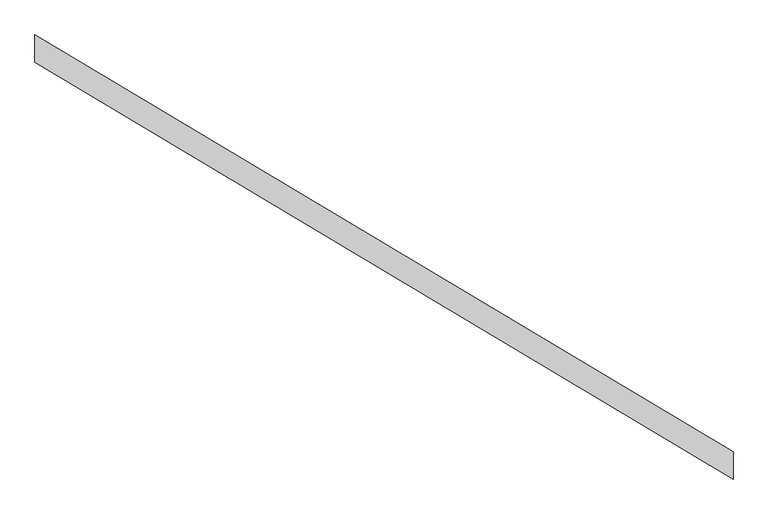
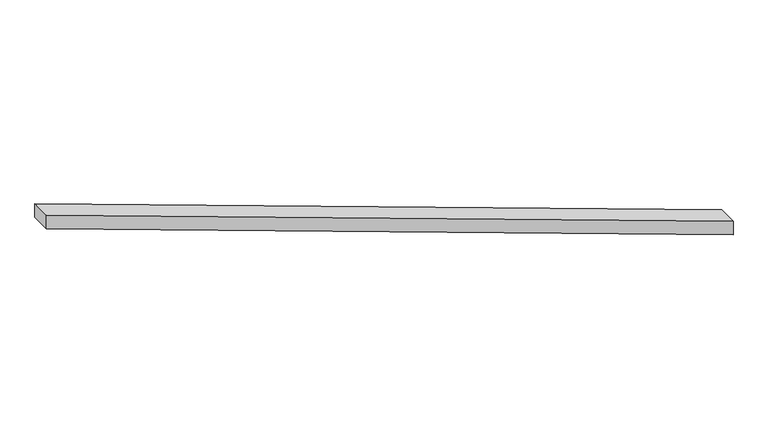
"""IFC4 building model written with IfcOpenShell, lengths in millimetres: proxy geometry, Modelos genéricos 261 : Modelos genéricos 259."""

from ifc_helpers import new_model, si_unit, frame, origin, place, context, project, spatial, polyline, outline, extrude, source, transform, mapped, element, save


def generic_models_aa6c6cb6(model_context):
    return source(origin(), model_context, "Body", "SweptSolid", [
        extrude(outline(polyline([(9303.4472467, 5940.1777154), (9303.4472467, 6079.9926685), (12893.4472467, 3933.4387696), (12893.4472467, 3793.6238165), (9303.4472467, 5940.1777154)])), frame((0.0, 0.0, 3000.0), z_axis=(0.0, 0.0, 1.0), x_axis=(1.0, 0.0, 0.0)), (0.0, 0.0, 1.0), 100.0),
    ])


if __name__ == "__main__":
    model = new_model("IFC4")
    model_context = context("Model", 3, world=origin())
    ifc_project = project(units=[si_unit("LENGTHUNIT", "METRE", prefix="MILLI")], contexts=[model_context])
    site = spatial("IfcSite", under=ifc_project)
    building = spatial("IfcBuilding", under=site)
    placement = place(None, origin())
    generic_models_shape = generic_models_aa6c6cb6(model_context)
    element("IfcBuildingElementProxy", 1, Name="Modelos genéricos 261 : Modelos genéricos 259", ObjectType="Modelos genéricos 261 : Modelos genéricos 259", at=placement, inside=building, context=model_context, shape_type="MappedRepresentation", body=[
        mapped(generic_models_shape, transform((0.0, 0.0, 0.0), x_axis=(1.0, 0.0, 0.0), y_axis=(0.0, 1.0, 0.0), z_axis=(0.0, 0.0, 1.0))),
    ])
    save(model, "model.ifc")
